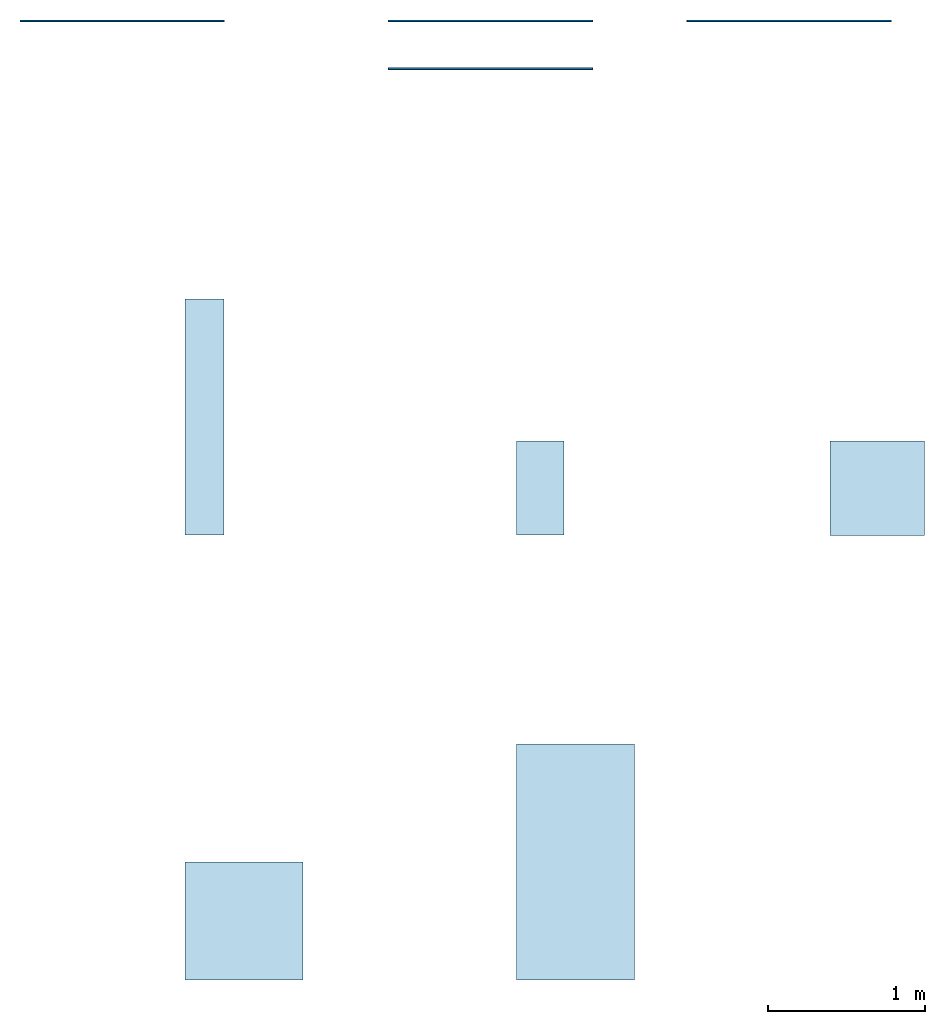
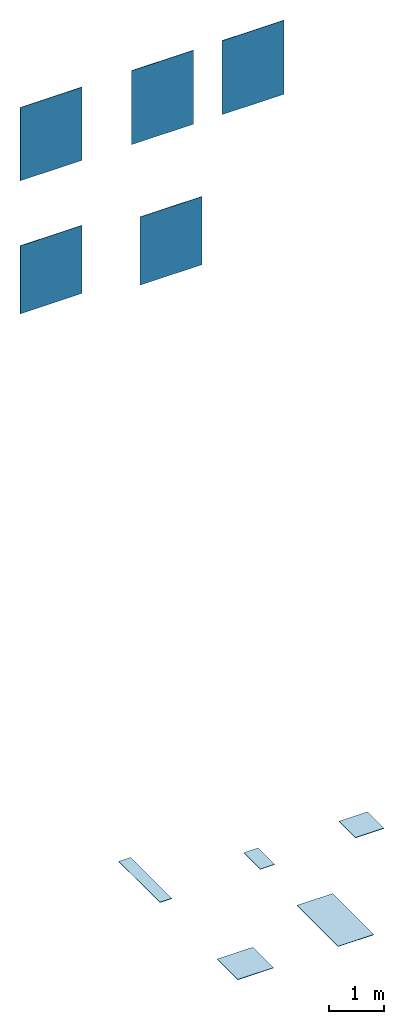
# One storey: 5 slabs, 5 walls.
"""IFC2X3 building model written with IfcOpenShell, lengths in millimetres."""

from ifc_helpers import new_model, entity, si_unit, converted_unit, derived_unit, direction, frame, frame_2d, origin, origin_2d_with_axis, place, context, subcontext, project, spatial, rectangle, extrude, material, layer, layer_set, layer_usage, type_object, element, save


model = new_model("IFC2X3")

# Units and contexts
model_context = context("Model", 3, precision=0.01, world=origin(), true_north=direction((6.12303176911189e-17, 1.0)))
body_context = subcontext(model_context, "Body", "Model", "MODEL_VIEW")
ifc_project = project(units=[si_unit("LENGTHUNIT", "METRE", prefix="MILLI"), si_unit("AREAUNIT", "SQUARE_METRE"), si_unit("VOLUMEUNIT", "CUBIC_METRE"), converted_unit("PLANEANGLEUNIT", "DEGREE", entity("IfcRatioMeasure", 0.0174532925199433), si_unit("PLANEANGLEUNIT", "RADIAN"), dimensions=[0, 0, 0, 0, 0, 0, 0]), si_unit("MASSUNIT", "GRAM", prefix="KILO"), derived_unit("MASSDENSITYUNIT", [(si_unit("MASSUNIT", "GRAM", prefix="KILO"), 1), (si_unit("LENGTHUNIT", "METRE"), -3)]), derived_unit("MOMENTOFINERTIAUNIT", [(si_unit("LENGTHUNIT", "METRE"), 4)]), si_unit("TIMEUNIT", "SECOND"), si_unit("FREQUENCYUNIT", "HERTZ"), si_unit("THERMODYNAMICTEMPERATUREUNIT", "DEGREE_CELSIUS"), derived_unit("THERMALTRANSMITTANCEUNIT", [(si_unit("MASSUNIT", "GRAM", prefix="KILO"), 1), (si_unit("THERMODYNAMICTEMPERATUREUNIT", "KELVIN"), -1), (si_unit("TIMEUNIT", "SECOND"), -3)]), derived_unit("VOLUMETRICFLOWRATEUNIT", [(si_unit("LENGTHUNIT", "METRE"), 3), (si_unit("TIMEUNIT", "SECOND"), -1)]), si_unit("ELECTRICCURRENTUNIT", "AMPERE"), si_unit("ELECTRICVOLTAGEUNIT", "VOLT"), si_unit("POWERUNIT", "WATT"), si_unit("FORCEUNIT", "NEWTON", prefix="KILO"), si_unit("ILLUMINANCEUNIT", "LUX"), si_unit("LUMINOUSFLUXUNIT", "LUMEN"), si_unit("LUMINOUSINTENSITYUNIT", "CANDELA"), derived_unit("USERDEFINED", [(si_unit("MASSUNIT", "GRAM", prefix="KILO"), -1), (si_unit("LENGTHUNIT", "METRE"), -2), (si_unit("TIMEUNIT", "SECOND"), 3), (si_unit("LUMINOUSFLUXUNIT", "LUMEN"), 1)]), derived_unit("LINEARVELOCITYUNIT", [(si_unit("LENGTHUNIT", "METRE"), 1), (si_unit("TIMEUNIT", "SECOND"), -1)]), si_unit("PRESSUREUNIT", "PASCAL"), derived_unit("USERDEFINED", [(si_unit("LENGTHUNIT", "METRE"), -2), (si_unit("MASSUNIT", "GRAM", prefix="KILO"), 1), (si_unit("TIMEUNIT", "SECOND"), -2)]), derived_unit("LINEARFORCEUNIT", [(si_unit("MASSUNIT", "GRAM", prefix="KILO"), 1), (si_unit("LENGTHUNIT", "METRE"), 1), (si_unit("TIMEUNIT", "SECOND"), -2), (si_unit("LENGTHUNIT", "METRE"), -1)]), derived_unit("PLANARFORCEUNIT", [(si_unit("MASSUNIT", "GRAM", prefix="KILO"), 1), (si_unit("LENGTHUNIT", "METRE"), 1), (si_unit("TIMEUNIT", "SECOND"), -2), (si_unit("LENGTHUNIT", "METRE"), -2)])], contexts=[model_context])

# Site, building, storey
site_placement = place(None, origin())
site = spatial("IfcSite", under=ifc_project, at=site_placement, Name="Default", CompositionType="ELEMENT")
building_placement = place(site_placement, origin())
building = spatial("IfcBuilding", under=site, at=building_placement, CompositionType="ELEMENT")
storey_placement = place(building_placement, origin())
storey = spatial("IfcBuildingStorey", under=building, at=storey_placement, Name="Level 0", CompositionType="ELEMENT", Elevation=0.0)

# Slabs
ifc_material_1 = material(Name="Design Industry-Oxyde Dark-30x60 NG50")
ifc_layer_1 = layer(ifc_material_1, 9.0)
ifc_material_2 = material(Name="<Unnamed>")
ifc_layer_2 = layer(ifc_material_2, 1.0)
ifc_layer_set_1 = layer_set([ifc_layer_1, ifc_layer_2], Name="Floor:Floor_Tiles_Refin-Design-Industry-Oxyde-Dark-30x60 NG50")
ifc_layer_usage_1 = layer_usage(ifc_layer_set_1, "AXIS3", "POSITIVE", 0.0)
slab_type_1 = type_object("IfcSlabType", Name="Floor:Floor_Tiles_Refin-Design-Industry-Oxyde-Dark-30x60 NG50", PredefinedType="FLOOR", material=ifc_layer_set_1)
slab_1_placement = place(storey_placement, origin())
element("IfcSlab", 1, at=slab_1_placement, inside=storey, type_object=slab_type_1, material=ifc_layer_usage_1, Name="Floor:Floor_Tiles_Refin-Design-Industry-Oxyde-Dark-30x60 NG50", ObjectType="Floor:Floor_Tiles_Refin-Design-Industry-Oxyde-Dark-30x60 NG50", PredefinedType="FLOOR", context=body_context, shape_type="SweptSolid", body=[
    extrude(rectangle(XDim=600.000000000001, YDim=300.000000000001, at=frame_2d((-2.8421709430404e-13, 0.0), x_axis=(1.0, 0.0))), frame((9224.37520617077, 5167.41107270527, 0.0), z_axis=(0.0, 0.0, -1.0), x_axis=(0.0, 1.0, 0.0)), (0.0, 0.0, 1.0), 10.0),
])
ifc_material_3 = material(Name="Design Industry-Oxyde Dark-75x150 LD69")
ifc_layer_3 = layer(ifc_material_3, 9.0)
ifc_layer_4 = layer(ifc_material_2, 1.0)
ifc_layer_set_2 = layer_set([ifc_layer_3, ifc_layer_4], Name="Floor:Floor_Tiles_Refin-Design-Industry-Oxyde-Dark-75x150 LD69")
ifc_layer_usage_2 = layer_usage(ifc_layer_set_2, "AXIS3", "POSITIVE", 0.0)
slab_type_2 = type_object("IfcSlabType", Name="Floor:Floor_Tiles_Refin-Design-Industry-Oxyde-Dark-75x150 LD69", PredefinedType="FLOOR", material=ifc_layer_set_2)
slab_2_placement = place(storey_placement, origin())
element("IfcSlab", 2, at=slab_2_placement, inside=storey, type_object=slab_type_2, material=ifc_layer_usage_2, Name="Floor:Floor_Tiles_Refin-Design-Industry-Oxyde-Dark-75x150 LD69", ObjectType="Floor:Floor_Tiles_Refin-Design-Industry-Oxyde-Dark-75x150 LD69", PredefinedType="FLOOR", context=body_context, shape_type="SweptSolid", body=[
    extrude(rectangle(XDim=1500.0, YDim=750.000000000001, at=origin_2d_with_axis()), frame((9449.37520617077, 2789.4623742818, 0.0), z_axis=(0.0, 0.0, -1.0), x_axis=(0.0, 1.0, 0.0)), (0.0, 0.0, 1.0), 10.0),
])
ifc_material_4 = material(Name="Design Industry-Oxyde Dark-60x60 LE58")
ifc_layer_5 = layer(ifc_material_4, 9.0)
ifc_layer_6 = layer(ifc_material_2, 1.0)
ifc_layer_set_3 = layer_set([ifc_layer_5, ifc_layer_6], Name="Floor:Floor_Tiles_Refin-Design-Industry-Oxyde-Dark-60x60 LE58")
ifc_layer_usage_3 = layer_usage(ifc_layer_set_3, "AXIS3", "POSITIVE", 0.0)
slab_type_3 = type_object("IfcSlabType", Name="Floor:Floor_Tiles_Refin-Design-Industry-Oxyde-Dark-60x60 LE58", PredefinedType="FLOOR", material=ifc_layer_set_3)
slab_3_placement = place(storey_placement, origin())
element("IfcSlab", 3, at=slab_3_placement, inside=storey, type_object=slab_type_3, material=ifc_layer_usage_3, Name="Floor:Floor_Tiles_Refin-Design-Industry-Oxyde-Dark-60x60 LE58", ObjectType="Floor:Floor_Tiles_Refin-Design-Industry-Oxyde-Dark-60x60 LE58", PredefinedType="FLOOR", context=body_context, shape_type="SweptSolid", body=[
    extrude(rectangle(XDim=600.000000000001, YDim=600.0, at=frame_2d((-2.8421709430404e-13, 1.08002495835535e-12), x_axis=(1.0, 0.0))), frame((11367.3924054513, 5166.36790481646, 0.0), z_axis=(0.0, 0.0, -1.0), x_axis=(0.0, 1.0, 0.0)), (0.0, 0.0, 1.0), 10.0),
])
ifc_material_5 = material(Name="Design Industry-Oxyde Dark-75x75 LE48")
ifc_layer_7 = layer(ifc_material_5, 9.0)
ifc_layer_8 = layer(ifc_material_2, 1.0)
ifc_layer_set_4 = layer_set([ifc_layer_7, ifc_layer_8], Name="Floor:Floor_Tiles_Refin-Design-Industry-Oxyde-Dark-75x75 LE48")
ifc_layer_usage_4 = layer_usage(ifc_layer_set_4, "AXIS3", "POSITIVE", 0.0)
slab_type_4 = type_object("IfcSlabType", Name="Floor:Floor_Tiles_Refin-Design-Industry-Oxyde-Dark-75x75 LE48", PredefinedType="FLOOR", material=ifc_layer_set_4)
slab_4_placement = place(storey_placement, origin())
element("IfcSlab", 4, at=slab_4_placement, inside=storey, type_object=slab_type_4, material=ifc_layer_usage_4, Name="Floor:Floor_Tiles_Refin-Design-Industry-Oxyde-Dark-75x75 LE48", ObjectType="Floor:Floor_Tiles_Refin-Design-Industry-Oxyde-Dark-75x75 LE48", PredefinedType="FLOOR", context=body_context, shape_type="SweptSolid", body=[
    extrude(rectangle(XDim=750.0, YDim=750.000000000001, at=origin_2d_with_axis()), frame((7340.61813234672, 2414.4623742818, 0.0), z_axis=(0.0, 0.0, -1.0), x_axis=(0.0, 1.0, 0.0)), (0.0, 0.0, 1.0), 10.0),
])
ifc_material_6 = material(Name="Design Industry-Oxyde Dark-25x150 LE89")
ifc_layer_9 = layer(ifc_material_6, 9.0)
ifc_layer_10 = layer(ifc_material_2, 1.0)
ifc_layer_set_5 = layer_set([ifc_layer_9, ifc_layer_10], Name="Floor:Floor_Tiles_Refin-Design-Industry-Oxyde-Dark-25x150 LE89")
ifc_layer_usage_5 = layer_usage(ifc_layer_set_5, "AXIS3", "POSITIVE", 0.0)
slab_type_5 = type_object("IfcSlabType", Name="Floor:Floor_Tiles_Refin-Design-Industry-Oxyde-Dark-25x150 LE89", PredefinedType="FLOOR", material=ifc_layer_set_5)
slab_5_placement = place(storey_placement, origin())
element("IfcSlab", 5, at=slab_5_placement, inside=storey, type_object=slab_type_5, material=ifc_layer_usage_5, Name="Floor:Floor_Tiles_Refin-Design-Industry-Oxyde-Dark-25x150 LE89", ObjectType="Floor:Floor_Tiles_Refin-Design-Industry-Oxyde-Dark-25x150 LE89", PredefinedType="FLOOR", context=body_context, shape_type="SweptSolid", body=[
    extrude(rectangle(XDim=1500.0, YDim=249.999999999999, at=frame_2d((5.11590769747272e-13, 0.0), x_axis=(1.0, 0.0))), frame((7090.61813234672, 5617.41107270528, 0.0), z_axis=(0.0, 0.0, -1.0), x_axis=(0.0, 1.0, 0.0)), (0.0, 0.0, 1.0), 10.0),
])

# Walls
ifc_layer_11 = layer(ifc_material_2, 1.0)
ifc_layer_12 = layer(ifc_material_1, 9.0)
ifc_layer_set_6 = layer_set([ifc_layer_11, ifc_layer_12], Name="Basic Wall:Wall_Tiles_Refin-Design-Industry-Oxyde_Dark-30x60 NG50")
ifc_layer_usage_6 = layer_usage(ifc_layer_set_6, "AXIS2", "NEGATIVE", 5.0)
wall_type_1 = type_object("IfcWallType", Name="Basic Wall:Wall_Tiles_Refin-Design-Industry-Oxyde_Dark-30x60 NG50", PredefinedType="STANDARD", material=ifc_layer_set_6)
wall_1_placement = place(storey_placement, frame((8257.37520617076, 8137.38386313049, 14387.6770443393)))
element("IfcWallStandardCase", 6, at=wall_1_placement, inside=storey, type_object=wall_type_1, material=ifc_layer_usage_6, Name="Basic Wall:Wall_Tiles_Refin-Design-Industry-Oxyde_Dark-30x60 NG50", ObjectType="Basic Wall:Wall_Tiles_Refin-Design-Industry-Oxyde_Dark-30x60 NG50", context=body_context, shape_type="SweptSolid", body=[
    extrude(rectangle(XDim=1300.0, YDim=9.99999999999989, at=frame_2d((650.0, 7.63833440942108e-14), x_axis=(-1.0, 0.0))), origin(), (0.0, 0.0, 1.0), 1641.74173522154),
])
ifc_layer_13 = layer(ifc_material_2, 1.0)
ifc_layer_14 = layer(ifc_material_6, 9.0)
ifc_layer_set_7 = layer_set([ifc_layer_13, ifc_layer_14], Name="Basic Wall:Wall_Tiles_Refin-Design-Industry-Oxyde_Dark-25x150 LE89")
ifc_layer_usage_7 = layer_usage(ifc_layer_set_7, "AXIS2", "NEGATIVE", 5.0)
wall_type_2 = type_object("IfcWallType", Name="Basic Wall:Wall_Tiles_Refin-Design-Industry-Oxyde_Dark-25x150 LE89", PredefinedType="STANDARD", material=ifc_layer_set_7)
wall_2_placement = place(storey_placement, frame((5917.37520617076, 8137.38386313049, 14403.726734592)))
element("IfcWallStandardCase", 7, at=wall_2_placement, inside=storey, type_object=wall_type_2, material=ifc_layer_usage_7, Name="Basic Wall:Wall_Tiles_Refin-Design-Industry-Oxyde_Dark-25x150 LE89", ObjectType="Basic Wall:Wall_Tiles_Refin-Design-Industry-Oxyde_Dark-25x150 LE89", context=body_context, shape_type="SweptSolid", body=[
    extrude(rectangle(XDim=1300.0, YDim=9.99999999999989, at=frame_2d((650.0, 7.63833440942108e-14), x_axis=(-1.0, 0.0))), origin(), (0.0, 0.0, 1.0), 1625.69204496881),
])
ifc_layer_15 = layer(ifc_material_2, 1.0)
ifc_layer_16 = layer(ifc_material_3, 9.0)
ifc_layer_set_8 = layer_set([ifc_layer_15, ifc_layer_16], Name="Basic Wall:Wall_Tiles_Refin-Design-Industry-Oxyde_Dark-75x150 LD69")
ifc_layer_usage_8 = layer_usage(ifc_layer_set_8, "AXIS2", "NEGATIVE", 5.0)
wall_type_3 = type_object("IfcWallType", Name="Basic Wall:Wall_Tiles_Refin-Design-Industry-Oxyde_Dark-75x150 LD69", PredefinedType="STANDARD", material=ifc_layer_set_8)
wall_3_placement = place(storey_placement, frame((8257.37520617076, 7832.38386313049, 11452.5436262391)))
element("IfcWallStandardCase", 8, at=wall_3_placement, inside=storey, type_object=wall_type_3, material=ifc_layer_usage_8, Name="Basic Wall:Wall_Tiles_Refin-Design-Industry-Oxyde_Dark-75x150 LD69", ObjectType="Basic Wall:Wall_Tiles_Refin-Design-Industry-Oxyde_Dark-75x150 LD69", context=body_context, shape_type="SweptSolid", body=[
    extrude(rectangle(XDim=1300.0, YDim=9.99999999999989, at=frame_2d((650.0, 0.0), x_axis=(-1.0, 0.0))), origin(), (0.0, 0.0, 1.0), 1513.19855655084),
])
ifc_layer_17 = layer(ifc_material_2, 1.0)
ifc_layer_18 = layer(ifc_material_5, 9.0)
ifc_layer_set_9 = layer_set([ifc_layer_17, ifc_layer_18], Name="Basic Wall:Wall_Tiles_Refin-Design-Industry-Oxyde_Dark-75x75 LE48")
ifc_layer_usage_9 = layer_usage(ifc_layer_set_9, "AXIS2", "NEGATIVE", 5.0)
wall_type_4 = type_object("IfcWallType", Name="Basic Wall:Wall_Tiles_Refin-Design-Industry-Oxyde_Dark-75x75 LE48", PredefinedType="STANDARD", material=ifc_layer_set_9)
wall_4_placement = place(storey_placement, frame((5917.37520617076, 8137.38386313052, 11449.8719237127)))
element("IfcWallStandardCase", 9, at=wall_4_placement, inside=storey, type_object=wall_type_4, material=ifc_layer_usage_9, Name="Basic Wall:Wall_Tiles_Refin-Design-Industry-Oxyde_Dark-75x75 LE48", ObjectType="Basic Wall:Wall_Tiles_Refin-Design-Industry-Oxyde_Dark-75x75 LE48", context=body_context, shape_type="SweptSolid", body=[
    extrude(rectangle(XDim=1300.0, YDim=9.99999999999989, at=frame_2d((650.0, 0.0), x_axis=(-1.0, 0.0))), origin(), (0.0, 0.0, 1.0), 1510.12807628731),
])
ifc_layer_19 = layer(ifc_material_2, 1.0)
ifc_layer_20 = layer(ifc_material_4, 9.0)
ifc_layer_set_10 = layer_set([ifc_layer_19, ifc_layer_20], Name="Basic Wall:Wall_Tiles_Refin-Design-Industry-Oxyde_Dark-60x60 LE58")
ifc_layer_usage_10 = layer_usage(ifc_layer_set_10, "AXIS2", "NEGATIVE", 5.0)
wall_type_5 = type_object("IfcWallType", Name="Basic Wall:Wall_Tiles_Refin-Design-Industry-Oxyde_Dark-60x60 LE58", PredefinedType="STANDARD", material=ifc_layer_set_10)
wall_5_placement = place(storey_placement, frame((10157.3752061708, 8137.38386313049, 14387.6770443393)))
element("IfcWallStandardCase", 10, at=wall_5_placement, inside=storey, type_object=wall_type_5, material=ifc_layer_usage_10, Name="Basic Wall:Wall_Tiles_Refin-Design-Industry-Oxyde_Dark-60x60 LE58", ObjectType="Basic Wall:Wall_Tiles_Refin-Design-Industry-Oxyde_Dark-60x60 LE58", context=body_context, shape_type="SweptSolid", body=[
    extrude(rectangle(XDim=1300.0, YDim=9.99999999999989, at=frame_2d((650.0, 7.63833440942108e-14), x_axis=(-1.0, 0.0))), origin(), (0.0, 0.0, 1.0), 1641.74173522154),
])

save(model, "model.ifc")
